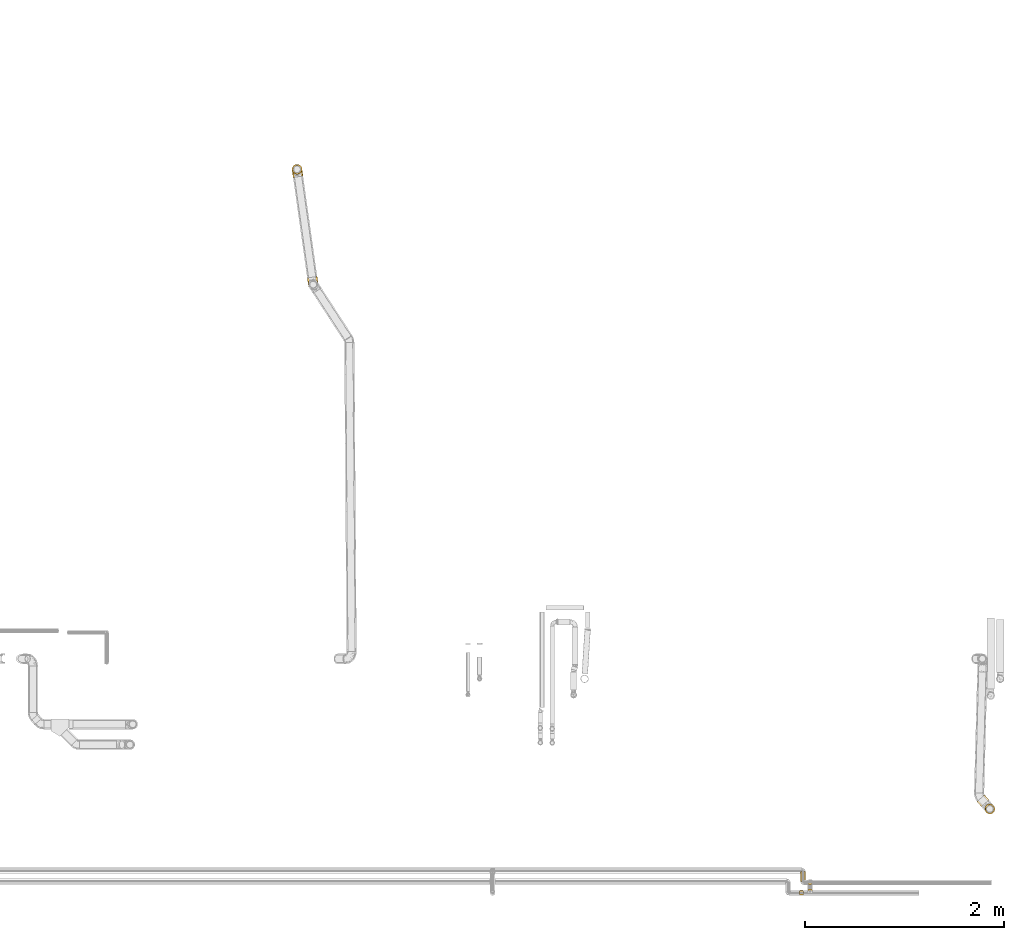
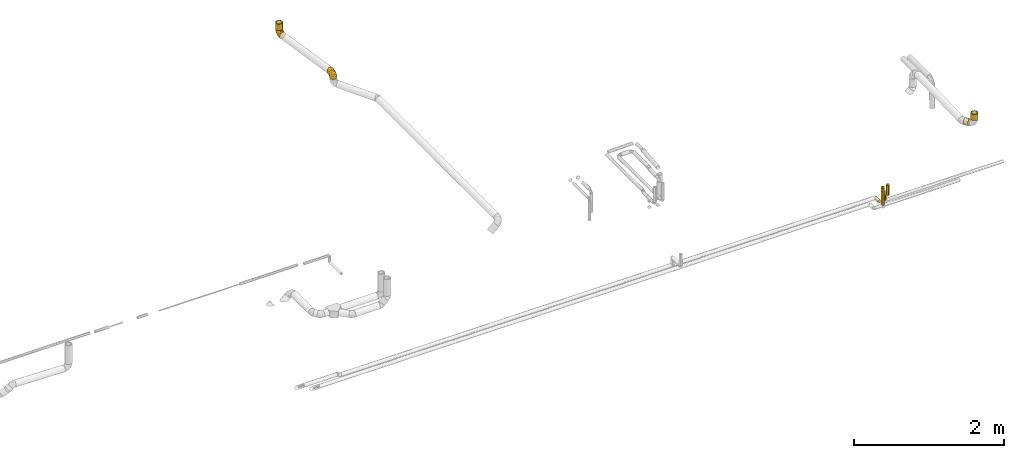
# One storey, part 7 of 156: 9 coverings.
"""IFC2X3 building model written with IfcOpenShell, lengths in millimetres."""

from ifc_helpers import new_model, entity, si_unit, converted_unit, derived_unit, direction, frame, origin_with_axes, origin_2d_with_axis, place, context, subcontext, project, spatial, hollow_circle, extrude, open_shell, surface_model, source, transform, mapped, element, save


model = new_model("IFC2X3")

# Units and contexts
model_context = context("Model", 3, precision=0.01, world=frame((0.0, 4.29681676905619e-09, 0.0)), true_north=direction((4.01073788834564e-13, 1.0)))
plan_context = context("Plan", 3, precision=0.01, world=frame((0.0, 4.29681676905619e-09, 0.0)), true_north=direction((4.01073788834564e-13, 1.0)))
body_context = subcontext(model_context, "Body", "Model", "MODEL_VIEW")
ifc_project = project(units=[converted_unit("PLANEANGLEUNIT", "DEGREE", entity("IfcPositiveLengthMeasure", 0.0174532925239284), si_unit("PLANEANGLEUNIT", "RADIAN"), dimensions=[0, 0, 0, 0, 0, 0, 0]), si_unit("AREAUNIT", "SQUARE_METRE"), si_unit("LENGTHUNIT", "METRE", prefix="MILLI"), si_unit("MASSUNIT", "GRAM", prefix="KILO"), si_unit("POWERUNIT", "WATT"), si_unit("PRESSUREUNIT", "PASCAL", prefix="KILO"), si_unit("FORCEUNIT", "NEWTON", prefix="KILO"), si_unit("ELECTRICVOLTAGEUNIT", "VOLT"), si_unit("ELECTRICCURRENTUNIT", "AMPERE"), si_unit("THERMODYNAMICTEMPERATUREUNIT", "DEGREE_CELSIUS"), si_unit("TIMEUNIT", "SECOND"), si_unit("VOLUMEUNIT", "CUBIC_METRE"), derived_unit("LINEARVELOCITYUNIT", [(si_unit("LENGTHUNIT", "METRE"), 1), (si_unit("TIMEUNIT", "SECOND"), -1)]), derived_unit("VOLUMETRICFLOWRATEUNIT", [(si_unit("VOLUMEUNIT", "CUBIC_METRE"), 1), (si_unit("TIMEUNIT", "SECOND"), -1)]), derived_unit("THERMALTRANSMITTANCEUNIT", [(si_unit("POWERUNIT", "WATT"), 1), (si_unit("THERMODYNAMICTEMPERATUREUNIT", "KELVIN"), -1), (si_unit("AREAUNIT", "SQUARE_METRE"), -1)]), derived_unit("SOUNDPRESSUREUNIT", [(si_unit("PRESSUREUNIT", "PASCAL"), 1)])], contexts=[model_context, plan_context])

# Site, building, storey
site_placement = place(None, frame((0.0, -4.29681676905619e-09, 0.0), z_axis=(0.0, 0.0, 1.0), x_axis=(1.0, 0.0, 0.0)))
site = spatial("IfcSite", under=ifc_project, at=site_placement, CompositionType="ELEMENT")
building_placement = place(site_placement, frame((0.0, 4.29681676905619e-09, 0.0), z_axis=(0.0, 0.0, 1.0), x_axis=(1.0, 0.0, 0.0)))
building = spatial("IfcBuilding", under=site, at=building_placement, Name="mc-building", CompositionType="ELEMENT")
storey_placement = place(building_placement, frame((0.0, 0.0, 205200.0), z_axis=(0.0, 0.0, 1.0), x_axis=(1.0, 0.0, 0.0)))
storey = spatial("IfcBuildingStorey", under=building, at=storey_placement, Name="Nivå D + 1,2 m", CompositionType="ELEMENT", Elevation=205200.0)

# Coverings
shared_shape_1 = source(origin_with_axes(), body_context, "Body", "SweptSolid", [
    extrude(hollow_circle(Radius=50.5, WallThickness=13.0, at=origin_2d_with_axis()), frame((0.0, 0.0, 0.0), z_axis=(1.0, 0.0, 0.0), x_axis=(0.0, 1.0, 0.0)), (0.0, 0.0, 1.0), 66.6),
])
covering_1_placement = place(storey_placement, frame((347989.63658, 459714.60679, 4377.41381999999), z_axis=(-8.4999999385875e-05, 8.4999999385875e-05, 0.999999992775), x_axis=(-0.642788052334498, 0.766044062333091, -0.000119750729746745)))
element("IfcCovering", 1, at=covering_1_placement, inside=storey, Name="BI17T - Cellegummi 13 mm SPV fett", PredefinedType="INSULATION", context=body_context, shape_type="MappedRepresentation", body=[
    mapped(shared_shape_1, transform((0.0, 0.0, 0.0), scale=1.0)),
])
shared_shape_2 = source(origin_with_axes(), body_context, "Body", "SweptSolid", [
    extrude(hollow_circle(Radius=50.5, WallThickness=13.0, at=origin_2d_with_axis()), frame((0.0, 0.0, 0.0), z_axis=(1.0, 0.0, 0.0), x_axis=(0.0, 1.0, 0.0)), (0.0, 0.0, 1.0), 100.2),
])
for number, where, z_axis, x_axis in (
    (2, (348037.84566, 459657.15345, 4552.61382), (0.642788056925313, -0.766044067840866, 0.0), (0.0, 0.0, -1.0)),
    (3, (341065.49318, 466093.7003, 4457.15203999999), (0.139173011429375, -0.990268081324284, 0.0), (0.0, 0.0, 1.0)),
):
    element("IfcCovering", number, at=place(storey_placement, frame(where, z_axis=z_axis, x_axis=x_axis)), inside=storey, Name="BI17T - Cellegummi 13 mm SPV fett", PredefinedType="INSULATION", context=body_context, shape_type="MappedRepresentation", body=[
        mapped(shared_shape_2, transform((0.0, 0.0, 0.0), scale=1.0)),
    ])
shared_shape_3 = source(origin_with_axes(), body_context, "Body", "SurfaceModel", [
    surface_model("IfcShellBasedSurfaceModel", [(31.49394, 75.0, 39.47635), (11.24292, 75.0, 49.23258), (21.91909, 75.0, 45.49509), (39.48835, 75.0, 31.47888), (45.50245, 75.0, 21.90382), (-45.50245, 75.0, -21.90382), (-49.23258, 75.0, 11.24292), (-11.23089, 75.0, 49.23533), (-31.47888, 75.0, 39.48835), (-21.90382, 75.0, 45.50245), (-45.49509, 75.0, 21.91909), (-39.47635, 75.0, 31.49394), (49.23533, 75.0, 11.23089), (49.23258, 75.0, -11.24292), (39.47635, 75.0, -31.49394), (45.49509, 75.0, -21.91909), (31.47888, 75.0, -39.48835), (21.90382, 75.0, -45.50245), (-11.24292, 75.0, -49.23258), (11.23089, 75.0, -49.23533), (0.0, 75.0, -50.5), (-31.49394, 75.0, -39.47635), (-39.48835, 75.0, -31.47888), (-49.23533, 75.0, -11.23089), (-50.5, 75.0, 0.0), (-21.91909, 75.0, -45.49509), (50.5, 75.0, 0.0), (-75.0, 25.25, -43.73428), (-75.0, 50.5, 0.0), (-75.0, 48.77925, -13.07036), (-75.0, 43.73428, -25.25), (-75.0, 13.07036, 48.77925), (-75.0, 35.70889, -35.70889), (-75.0, 13.07036, -48.77925), (-75.0, 48.77925, 13.07036), (-75.0, 35.70889, 35.70889), (-75.0, 43.73428, 25.25), (-75.0, 25.25, 43.73428), (-75.0, 0.0, 50.5), (-75.0, 0.0, -50.5), (-75.0, -35.70889, -35.70889), (-75.0, -13.07036, -48.77925), (-75.0, -25.25, -43.73428), (-75.0, -25.25, 43.73428), (-75.0, -43.73428, -25.25), (-75.0, -48.77925, -13.07036), (-75.0, -50.5, 0.0), (-75.0, -35.70889, 35.70889), (-75.0, -13.07036, 48.77925), (-75.0, -43.73428, 25.25), (-75.0, -48.77925, 13.07036), (12.64934, -12.64934, 0.0), (26.53163, 1.23295, 0.0), (11.64011, -11.64012, 17.0697), (-36.21837, -44.35759, 0.0), (-43.96193, -45.82224, 8.69831), (-50.1633, -46.56625, 0.0), (-13.93902, -32.39238, 13.94061), (-27.04529, -32.26369, 27.28364), (-45.2062, -43.62199, 17.67364), (-52.64686, -39.03065, 29.20162), (6.1382, 52.8732, 49.67312), (0.0, 75.0, 50.5), (-19.65704, -0.83379, 46.83764), (-49.45987, -19.06709, 45.22422), (-23.23209, -15.49393, 41.16316), (-49.7688, -7.34228, 49.26021), (-44.8156, -29.06527, 37.91745), (33.6367, 44.70154, 33.50702), (26.64162, 52.3117, 41.24235), (21.07138, 25.24575, 38.06097), (-4.22725, 24.69178, 49.09447), (-5.70904, 46.29874, 50.5), (-21.96699, 21.96699, 50.5), (0.2263, 8.20988, 43.53163), (35.45552, 17.83502, 10.6165), (44.35759, 36.21837, 0.0), (44.47618, 45.03363, 15.14065), (-46.29874, 5.70904, 50.5), (-27.11707, 6.63076, 49.78474), (33.03742, 23.23942, 23.31327), (41.55445, 52.84592, 25.41048), (46.56625, 50.1633, 0.0), (4.57882, -11.26336, 27.48812), (22.55206, 4.12106, 21.73596), (19.66588, 8.90627, 30.22564), (-1.23295, -26.53163, 0.0), (12.07449, 31.0651, 45.19532), (17.71923, 53.83757, 46.32595), (3.04218, -2.48883, 36.42539), (-13.45794, -19.37586, 33.63512), (-18.72566, -35.44461, 0.0), (35.44461, 18.72566, 0.0), (-48.52842, 68.17879, 16.68598), (-55.27416, 12.69306, 49.57038), (-58.88306, 3.20586, 50.5), (-38.27136, 29.97394, 47.59046), (-23.57111, 41.59228, 48.61379), (-36.94496, 65.19489, 35.7157), (-27.7375, 65.85146, 42.76423), (-61.4974, 42.7792, 30.74245), (-63.84733, 32.17071, 40.06434), (-51.42312, 36.25154, 40.88495), (-45.46439, 62.06116, 26.87553), (-43.34221, 68.87219, 26.87553), (-36.51863, 43.60511, 43.68418), (-65.25465, 51.47265, 9.82931), (-62.75, 53.78238, 0.0), (-68.875, 52.14119, 0.0), (-51.88239, 69.84084, 0.0), (-64.63162, 17.93727, 47.55155), (-67.6261, 47.6319, 19.32551), (-68.85458, 40.6091, 30.74245), (-44.41033, 19.8553, 49.06838), (-54.82145, 23.11094, 46.65592), (-18.51685, 60.44696, 47.66853), (-54.54935, 48.93662, 28.23238), (-62.70186, 49.7903, 18.59835), (-3.20586, 58.88306, 50.5), (-61.04403, 53.85982, 9.12542), (-30.90564, 55.6835, 42.76423), (-40.3113, 56.53409, 35.71531), (-52.18855, 61.13263, 14.72938), (-53.78238, 62.75, 0.0), (-56.73444, 57.02186, 10.61847), (-58.26619, 58.26619, 0.0), (-13.83801, 34.13287, 50.5), (-70.20679, 50.0494, 9.52724), (-46.98514, 47.44109, 35.7157), (-50.60359, 55.15507, 25.56392), (-52.83369, 43.2423, 35.13728), (-58.30018, 52.78702, 17.93024), (-34.13287, 13.83801, 50.5), (-51.7235, 52.67811, -26.88284), (-57.10258, 45.71425, -29.92521), (-56.9186, 54.00325, -17.71529), (-60.51936, 21.24165, -46.65592), (-70.0781, 47.08652, -19.32551), (-67.84416, 50.44944, -10.35086), (-64.15319, 48.81348, -19.32551), (-18.53163, 60.44501, -47.6637), (-62.8657, 52.46804, -10.44324), (-57.90228, 34.17845, -40.06435), (-65.95799, 41.25474, -30.74245), (-43.35228, 68.87084, -26.8602), (-48.5334, 68.17884, -16.67216), (-45.47548, 62.05985, -26.8602), (-36.95883, 65.19564, -35.70208), (-55.23148, 12.55824, -49.59768), (-52.18863, 61.13975, -14.71703), (-67.2194, 31.43175, -40.06434), (-55.97795, 58.02605, -9.97117), (-3.20586, 58.88306, -50.5), (-51.08787, 25.5783, -46.32865), (-41.32575, 29.23594, -47.11339), (-44.57478, 19.12548, -49.20135), (-23.58829, 41.57625, -48.61219), (-31.49814, 46.19734, -45.04631), (-38.07713, 57.85881, -37.07141), (-30.92319, 55.68162, -42.7546), (-38.79962, 50.15024, -39.79427), (-27.75338, 65.85005, -42.7546), (-40.50037, 40.68263, -43.08729), (-31.85017, 34.10086, -48.04724), (-5.70904, 46.29874, -50.5), (-21.96699, 21.96699, -50.5), (-13.83801, 34.13287, -50.5), (-32.99402, 23.81556, -49.7299), (-58.88306, 3.20586, -50.5), (-49.98369, 39.29273, -39.54988), (-47.00535, 47.43996, -35.70209), (-69.84084, 51.88239, 0.0), (-44.82061, 55.09846, -32.26415), (-49.27707, 57.82009, -24.66381), (-46.29874, 5.70904, -50.5), (-34.13287, 13.83801, -50.5), (-27.12034, 6.63398, -49.78551), (-44.8115, -29.06446, -37.91714), (-49.45933, -19.06701, -45.22419), (-23.22135, -15.48723, -41.1635), (3.03431, -2.47986, -36.43681), (0.21934, 8.21978, -43.53855), (21.06009, 25.25195, -38.07219), (19.65845, 8.91335, -30.23922), (-4.23256, 24.69711, -49.09625), (-49.7688, -7.34228, -49.26021), (-43.96192, -45.82226, -8.69822), (-45.20209, -43.62105, -17.67341), (-19.66242, -0.82834, -46.8407), (12.06287, 31.07048, -45.20169), (-52.64059, -39.02974, -29.20117), (-27.03461, -32.25951, -27.28279), (11.63925, -11.63926, -17.0731), (4.56555, -11.2681, -27.49661), (6.13272, 52.87845, -49.67434), (44.47172, 45.03273, -15.15371), (33.62422, 44.70155, -33.52058), (35.44701, 17.82392, -10.62791), (26.62716, 52.31215, -41.25239), (-13.93805, -32.39219, -13.93949), (22.54286, 4.11912, -21.74918), (33.03036, 23.24222, -23.32782), (41.54481, 52.84076, -25.42509), (-13.43916, -19.35244, -33.6456), (17.70473, 53.84028, -46.33234)], [open_shell([[[0, 1, 2]], [[3, 4, 1]], [[0, 3, 1]], [[4, 5, 6]], [[7, 8, 9]], [[10, 11, 6]], [[6, 11, 8]], [[4, 12, 5]], [[5, 12, 13]], [[14, 13, 15]], [[14, 16, 17]], [[17, 18, 13]], [[17, 13, 14]], [[19, 20, 17]], [[5, 21, 22]], [[23, 24, 5]], [[18, 21, 5]], [[25, 21, 18]], [[5, 13, 18]], [[20, 18, 17]], [[12, 26, 13]], [[27, 28, 29]], [[27, 29, 30]], [[28, 27, 31]], [[27, 30, 32]], [[31, 27, 33]], [[34, 35, 36]], [[35, 34, 31]], [[35, 31, 37]], [[34, 28, 31]], [[33, 38, 31]], [[33, 39, 38]], [[40, 39, 41]], [[40, 41, 42]], [[43, 40, 44]], [[40, 43, 38]], [[45, 46, 44]], [[43, 46, 47]], [[48, 38, 43]], [[49, 46, 50]], [[46, 49, 47]], [[44, 46, 43]], [[38, 39, 40]], [[51, 52, 53]], [[54, 55, 56]], [[57, 58, 59]], [[59, 58, 60]], [[61, 1, 62]], [[63, 64, 65]], [[49, 50, 59]], [[48, 64, 66]], [[47, 67, 43]], [[60, 47, 49]], [[68, 69, 70]], [[69, 0, 2]], [[71, 72, 73]], [[38, 48, 66]], [[63, 65, 74]], [[75, 76, 77]], [[78, 79, 73]], [[75, 77, 80]], [[69, 68, 0]], [[64, 43, 67]], [[4, 77, 12]], [[47, 60, 67]], [[4, 3, 81]], [[77, 82, 12]], [[79, 71, 73]], [[53, 83, 57]], [[53, 84, 83]], [[68, 3, 0]], [[61, 62, 72]], [[68, 70, 85]], [[50, 56, 55]], [[53, 86, 51]], [[87, 88, 61]], [[87, 69, 88]], [[43, 64, 48]], [[83, 89, 90]], [[80, 77, 81]], [[55, 91, 57]], [[80, 68, 85]], [[81, 77, 4]], [[74, 71, 63]], [[59, 60, 49]], [[57, 59, 55]], [[57, 86, 53]], [[88, 69, 2]], [[70, 69, 87]], [[74, 70, 87]], [[70, 89, 85]], [[3, 68, 81]], [[80, 81, 68]], [[65, 64, 67]], [[63, 79, 66]], [[90, 67, 58]], [[74, 65, 89]], [[63, 66, 64]], [[38, 66, 78]], [[72, 71, 61]], [[87, 61, 71]], [[75, 80, 84]], [[75, 52, 92]], [[2, 1, 88]], [[61, 88, 1]], [[82, 77, 76]], [[82, 26, 12]], [[67, 60, 58]], [[50, 46, 56]], [[50, 55, 59]], [[66, 79, 78]], [[71, 79, 63]], [[83, 85, 89]], [[84, 80, 85]], [[90, 89, 65]], [[57, 83, 58]], [[67, 90, 65]], [[58, 83, 90]], [[83, 84, 85]], [[75, 84, 53]], [[70, 74, 89]], [[71, 74, 87]], [[53, 52, 75]], [[91, 55, 54]], [[91, 86, 57]], [[76, 75, 92]], [[10, 6, 93]], [[78, 94, 95]], [[96, 73, 97]], [[94, 31, 95]], [[98, 99, 8]], [[100, 101, 102]], [[103, 104, 93]], [[105, 102, 96]], [[106, 107, 108]], [[6, 109, 93]], [[110, 101, 37]], [[36, 111, 34]], [[35, 112, 36]], [[36, 112, 111]], [[6, 24, 109]], [[113, 96, 114]], [[97, 72, 115]], [[100, 116, 117]], [[98, 8, 11]], [[9, 99, 115]], [[31, 94, 110]], [[11, 10, 104]], [[115, 118, 7]], [[9, 115, 7]], [[106, 119, 107]], [[120, 99, 98]], [[121, 120, 98]], [[103, 93, 122]], [[93, 123, 122]], [[124, 123, 125]], [[97, 115, 120]], [[104, 98, 11]], [[37, 101, 35]], [[121, 98, 103]], [[97, 105, 96]], [[9, 8, 99]], [[97, 73, 126]], [[123, 93, 109]], [[111, 106, 127]], [[128, 129, 116]], [[129, 103, 122]], [[102, 101, 114]], [[112, 101, 100]], [[125, 119, 124]], [[129, 128, 121]], [[96, 102, 114]], [[130, 128, 116]], [[113, 114, 94]], [[97, 120, 105]], [[118, 115, 72]], [[118, 62, 7]], [[34, 127, 28]], [[115, 99, 120]], [[93, 104, 10]], [[98, 104, 103]], [[124, 129, 122]], [[119, 125, 107]], [[116, 129, 131]], [[31, 38, 95]], [[132, 113, 78]], [[94, 114, 110]], [[96, 132, 73]], [[78, 113, 94]], [[132, 96, 113]], [[101, 110, 114]], [[37, 31, 110]], [[127, 106, 108]], [[117, 106, 111]], [[121, 105, 120]], [[102, 105, 128]], [[28, 127, 108]], [[111, 127, 34]], [[129, 121, 103]], [[105, 121, 128]], [[117, 116, 131]], [[130, 100, 102]], [[101, 112, 35]], [[111, 112, 100]], [[100, 117, 111]], [[119, 117, 131]], [[117, 119, 106]], [[119, 131, 124]], [[129, 124, 131]], [[123, 124, 122]], [[100, 130, 116]], [[102, 128, 130]], [[126, 72, 97]], [[133, 134, 135]], [[27, 136, 33]], [[137, 138, 139]], [[140, 25, 18]], [[141, 138, 107]], [[134, 142, 143]], [[144, 145, 5]], [[146, 144, 147]], [[148, 33, 136]], [[145, 146, 149]], [[150, 27, 32]], [[30, 137, 143]], [[125, 151, 141]], [[27, 150, 136]], [[109, 24, 23]], [[140, 18, 152]], [[149, 123, 145]], [[153, 154, 155]], [[145, 123, 109]], [[145, 23, 5]], [[137, 30, 29]], [[148, 153, 155]], [[140, 156, 157]], [[21, 147, 22]], [[158, 159, 160]], [[21, 25, 161]], [[158, 147, 159]], [[162, 157, 163]], [[164, 140, 152]], [[30, 143, 32]], [[161, 147, 21]], [[161, 140, 159]], [[162, 160, 157]], [[156, 140, 164]], [[165, 156, 166]], [[22, 144, 5]], [[154, 167, 155]], [[109, 23, 145]], [[33, 148, 168]], [[162, 169, 170]], [[141, 151, 135]], [[29, 28, 171]], [[134, 143, 139]], [[150, 143, 142]], [[146, 172, 173]], [[149, 135, 151]], [[18, 20, 152]], [[140, 161, 25]], [[147, 161, 159]], [[147, 144, 22]], [[145, 144, 146]], [[135, 134, 139]], [[134, 170, 169]], [[141, 139, 138]], [[172, 133, 173]], [[168, 148, 174]], [[168, 39, 33]], [[167, 165, 175]], [[175, 174, 155]], [[148, 155, 174]], [[163, 167, 154]], [[175, 155, 167]], [[153, 148, 136]], [[136, 142, 153]], [[169, 153, 142]], [[162, 163, 154]], [[163, 156, 165]], [[154, 153, 169]], [[160, 162, 170]], [[154, 169, 162]], [[134, 169, 142]], [[172, 160, 170]], [[157, 160, 159]], [[133, 172, 170]], [[158, 146, 147]], [[134, 133, 170]], [[173, 135, 149]], [[140, 157, 159]], [[157, 156, 163]], [[160, 172, 158]], [[146, 158, 172]], [[135, 173, 133]], [[149, 151, 123]], [[149, 146, 173]], [[143, 150, 32]], [[136, 150, 142]], [[138, 29, 171]], [[143, 137, 139]], [[29, 138, 137]], [[107, 138, 171]], [[125, 141, 107]], [[135, 139, 141]], [[156, 164, 166]], [[165, 167, 163]], [[123, 151, 125]], [[174, 165, 176]], [[177, 178, 179]], [[180, 179, 181]], [[180, 182, 183]], [[165, 164, 184]], [[174, 185, 39]], [[178, 42, 41]], [[177, 42, 178]], [[186, 45, 187]], [[176, 184, 188]], [[181, 184, 189]], [[190, 187, 44]], [[44, 187, 45]], [[190, 177, 191]], [[51, 86, 192]], [[177, 40, 42]], [[183, 193, 180]], [[189, 184, 194]], [[20, 194, 164]], [[192, 52, 51]], [[20, 19, 194]], [[15, 13, 195]], [[14, 196, 16]], [[197, 76, 92]], [[195, 13, 82]], [[196, 198, 16]], [[199, 187, 191]], [[197, 192, 200]], [[201, 195, 197]], [[14, 15, 202]], [[189, 198, 182]], [[202, 15, 195]], [[76, 195, 82]], [[188, 178, 185]], [[177, 179, 203]], [[202, 201, 196]], [[183, 182, 196]], [[190, 44, 40]], [[16, 198, 17]], [[17, 198, 204]], [[45, 186, 56]], [[199, 91, 186]], [[199, 191, 193]], [[91, 54, 186]], [[182, 198, 196]], [[204, 198, 189]], [[183, 196, 201]], [[181, 182, 180]], [[201, 202, 195]], [[196, 14, 202]], [[185, 178, 41]], [[179, 178, 188]], [[181, 179, 188]], [[180, 193, 203]], [[39, 185, 41]], [[185, 174, 176]], [[194, 19, 204]], [[184, 164, 194]], [[76, 197, 195]], [[197, 52, 192]], [[194, 204, 189]], [[19, 17, 204]], [[13, 26, 82]], [[177, 190, 40]], [[187, 190, 191]], [[56, 186, 54]], [[56, 46, 45]], [[199, 186, 187]], [[184, 176, 165]], [[185, 176, 188]], [[201, 200, 183]], [[183, 200, 193]], [[199, 193, 192]], [[180, 203, 179]], [[193, 191, 203]], [[177, 203, 191]], [[197, 200, 201]], [[193, 200, 192]], [[184, 181, 188]], [[182, 181, 189]], [[192, 86, 199]], [[199, 86, 91]], [[92, 52, 197]], [[1, 7, 62]], [[1, 4, 7]], [[7, 4, 8]], [[6, 8, 4]], [[6, 5, 24]]])]),
])
for number, where, z_axis, x_axis in (
    (4, (341228.4561, 464934.15885, 4382.15203999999), (-0.990268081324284, -0.139173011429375, 0.0), (0.0, 0.0, 1.0)),
    (5, (341065.49318, 466093.7003, 4382.15203999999), (0.990268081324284, 0.139173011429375, 0.0), (-0.139173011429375, 0.990268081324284, 0.0)),
):
    element("IfcCovering", number, at=place(storey_placement, frame(where, z_axis=z_axis, x_axis=x_axis)), inside=storey, Name="BI17T - Cellegummi 13 mm SPV fett", PredefinedType="INSULATION", context=body_context, shape_type="MappedRepresentation", body=[
        mapped(shared_shape_3, transform((0.0, 0.0, 0.0), scale=1.0)),
    ])
shared_shape_4 = source(origin_with_axes(), body_context, "Body", "SweptSolid", [
    extrude(hollow_circle(Radius=25.0, WallThickness=20.0, at=origin_2d_with_axis()), frame((0.0, 0.0, 0.0), z_axis=(1.0, 0.0, 0.0), x_axis=(0.0, 1.0, 0.0)), (0.0, 0.0, 1.0), 97.7),
])
covering_2_placement = place(storey_placement, frame((346157.5, 459026.28638, 4203.32044000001), z_axis=(0.0, 0.0, 1.0), x_axis=(0.0, -1.0, 0.0)))
element("IfcCovering", 6, at=covering_2_placement, inside=storey, Name="BI10T - Cellegummi 18-32 mm kalde rør", PredefinedType="INSULATION", context=body_context, shape_type="MappedRepresentation", body=[
    mapped(shared_shape_4, transform((0.0, 0.0, 0.0), scale=1.0)),
])
shared_shape_5 = source(origin_with_axes(), body_context, "Body", "SweptSolid", [
    extrude(hollow_circle(Radius=25.0, WallThickness=20.0, at=origin_2d_with_axis()), frame((0.0, 0.0, 0.0), z_axis=(1.0, 0.0, 0.0), x_axis=(0.0, 1.0, 0.0)), (0.0, 0.0, 1.0), 122.1),
])
covering_3_placement = place(storey_placement, frame((346228.06078, 458918.61963, 4216.22044), z_axis=(-1.0, 0.0, 0.0), x_axis=(0.0, 0.0, 1.0)))
element("IfcCovering", 7, at=covering_3_placement, inside=storey, Name="BI10T - Cellegummi 18-32 mm kalde rør", PredefinedType="INSULATION", context=body_context, shape_type="MappedRepresentation", body=[
    mapped(shared_shape_5, transform((0.0, 0.0, 0.0), scale=1.0)),
])
shared_shape_6 = source(origin_with_axes(), body_context, "Body", "SweptSolid", [
    extrude(hollow_circle(Radius=25.0, WallThickness=20.0, at=origin_2d_with_axis()), frame((0.0, 0.0, 0.0), z_axis=(1.0, 0.0, 0.0), x_axis=(0.0, 1.0, 0.0)), (0.0, 0.0, 1.0), 160.0),
])
covering_4_placement = place(storey_placement, frame((346228.06078, 458828.61963, 4358.32044000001), z_axis=(-1.0, 0.0, 0.0), x_axis=(0.0, 0.0, 1.0)))
element("IfcCovering", 8, at=covering_4_placement, inside=storey, Name="BI10T - Cellegummi 18-32 mm kalde rør", PredefinedType="INSULATION", context=body_context, shape_type="MappedRepresentation", body=[
    mapped(shared_shape_6, transform((0.0, 0.0, 0.0), scale=1.0)),
])
shared_shape_7 = source(origin_with_axes(), body_context, "Body", "SweptSolid", [
    extrude(hollow_circle(Radius=25.0, WallThickness=20.0, at=origin_2d_with_axis()), frame((0.0, 0.0, 0.0), z_axis=(1.0, 0.0, 0.0), x_axis=(0.0, 1.0, 0.0)), (0.0, 0.0, 1.0), 287.1),
])
covering_5_placement = place(storey_placement, frame((346141.60779, 458813.61963, 4229.58835000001), z_axis=(-1.0, 0.0, 0.0), x_axis=(0.0, 0.0, 1.0)))
element("IfcCovering", 9, at=covering_5_placement, inside=storey, Name="BI10T - Cellegummi 18-32 mm kalde rør", PredefinedType="INSULATION", context=body_context, shape_type="MappedRepresentation", body=[
    mapped(shared_shape_7, transform((0.0, 0.0, 0.0), scale=1.0)),
])

save(model, "model.ifc")
